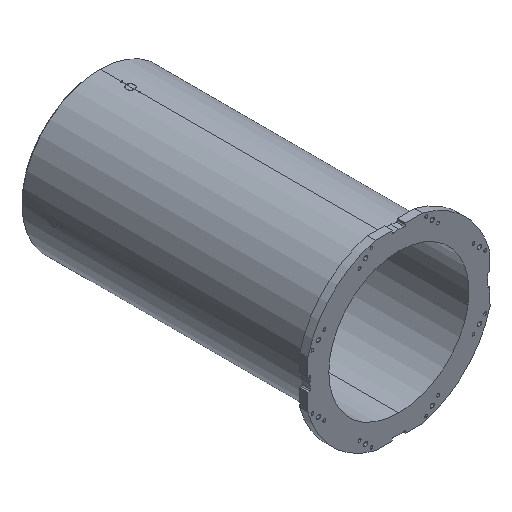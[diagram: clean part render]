
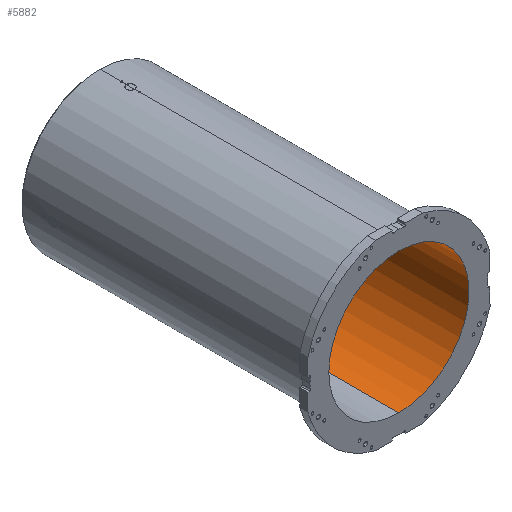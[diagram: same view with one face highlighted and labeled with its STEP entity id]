
A CAD part, isometric view. The second image highlights one B-rep face of the part: STEP entity #5882.
In plain terms, the highlighted cylindrical face has radius 350 mm (diameter 700 mm), a partial arc.
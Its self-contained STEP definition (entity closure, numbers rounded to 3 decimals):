
#65 = CARTESIAN_POINT ( 'NONE',  ( 0., 1463., 350. ) ) ;
#945 = ORIENTED_EDGE ( 'NONE', *, *, #1404, .T. ) ;
#1404 = EDGE_CURVE ( 'NONE', #11183, #9261, #5810, .T. ) ;
#1430 = CARTESIAN_POINT ( 'NONE',  ( 0., 0., 0. ) ) ;
#1581 = CIRCLE ( 'NONE', #10387, 350. ) ;
#1679 = DIRECTION ( 'NONE',  ( 0., 0., 1. ) ) ;
#2441 = DIRECTION ( 'NONE',  ( 0., 1., 0. ) ) ;
#3488 = CYLINDRICAL_SURFACE ( 'NONE', #6064, 350. ) ;
#3606 = LINE ( 'NONE', #8465, #12224 ) ;
#3828 = DIRECTION ( 'NONE',  ( 0., 1., 0. ) ) ;
#4095 = CARTESIAN_POINT ( 'NONE',  ( 0., 0., 350. ) ) ;
#4184 = VERTEX_POINT ( 'NONE', #7360 ) ;
#4862 = DIRECTION ( 'NONE',  ( 0., 1., 0. ) ) ;
#5221 = DIRECTION ( 'NONE',  ( 0., 0., 1. ) ) ;
#5346 = VECTOR ( 'NONE', #4862, 1000. ) ;
#5810 = LINE ( 'NONE', #4095, #5346 ) ;
#5882 = ADVANCED_FACE ( 'NONE', ( #9366 ), #3488, .F. ) ;
#6064 = AXIS2_PLACEMENT_3D ( 'NONE', #1430, #2441, #1679 ) ;
#6639 = CARTESIAN_POINT ( 'NONE',  ( 0., 1463., 0. ) ) ;
#6972 = EDGE_CURVE ( 'NONE', #9261, #11021, #1581, .T. ) ;
#7360 = CARTESIAN_POINT ( 'NONE',  ( 0., 0., -350. ) ) ;
#8138 = AXIS2_PLACEMENT_3D ( 'NONE', #8180, #11232, #5221 ) ;
#8180 = CARTESIAN_POINT ( 'NONE',  ( 0., 0., 0. ) ) ;
#8465 = CARTESIAN_POINT ( 'NONE',  ( 0., 0., -350. ) ) ;
#8536 = CARTESIAN_POINT ( 'NONE',  ( 0., 0., 350. ) ) ;
#9261 = VERTEX_POINT ( 'NONE', #65 ) ;
#9366 = FACE_OUTER_BOUND ( 'NONE', #11430, .T. ) ;
#9415 = DIRECTION ( 'NONE',  ( 0., 1., 0. ) ) ;
#9810 = ORIENTED_EDGE ( 'NONE', *, *, #6972, .T. ) ;
#10387 = AXIS2_PLACEMENT_3D ( 'NONE', #6639, #3828, #10720 ) ;
#10493 = EDGE_CURVE ( 'NONE', #4184, #11021, #3606, .T. ) ;
#10720 = DIRECTION ( 'NONE',  ( 0., 0., 1. ) ) ;
#11021 = VERTEX_POINT ( 'NONE', #12069 ) ;
#11183 = VERTEX_POINT ( 'NONE', #8536 ) ;
#11232 = DIRECTION ( 'NONE',  ( 0., 1., 0. ) ) ;
#11430 = EDGE_LOOP ( 'NONE', ( #12646, #11445, #945, #9810 ) ) ;
#11445 = ORIENTED_EDGE ( 'NONE', *, *, #12575, .F. ) ;
#12069 = CARTESIAN_POINT ( 'NONE',  ( 0., 1463., -350. ) ) ;
#12224 = VECTOR ( 'NONE', #9415, 1000. ) ;
#12575 = EDGE_CURVE ( 'NONE', #11183, #4184, #12633, .T. ) ;
#12633 = CIRCLE ( 'NONE', #8138, 350. ) ;
#12646 = ORIENTED_EDGE ( 'NONE', *, *, #10493, .F. ) ;
